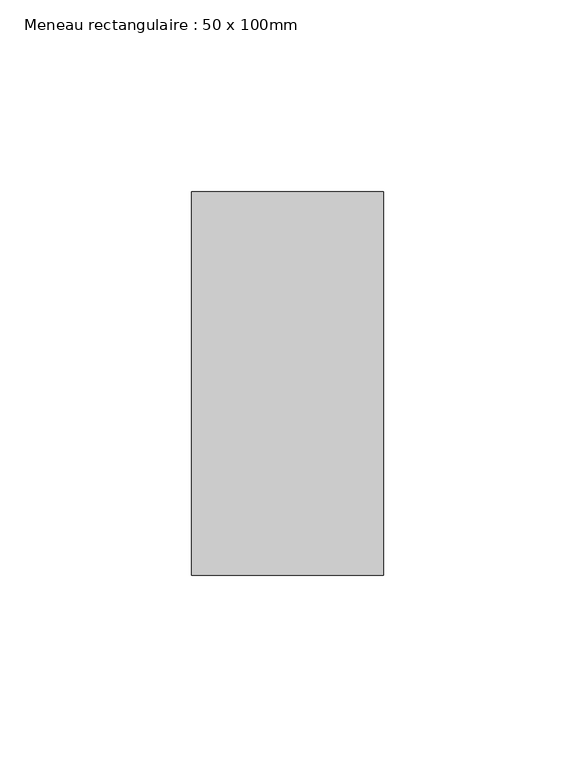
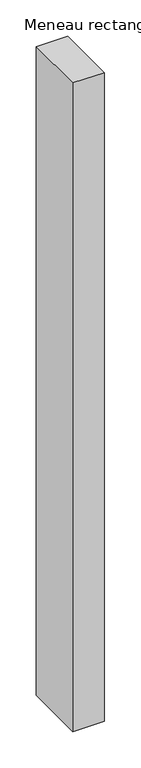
"""IFC4 building model written with IfcOpenShell, lengths in millimetres: member geometry, Meneau rectangulaire : 50 x 100mm."""

from ifc_helpers import new_model, si_unit, frame, origin, place, context, project, spatial, polyline, outline, extrude, source, transform, mapped, element, save


def meneau_rectangulaire_50_x_100mm_d45ac7b1(model_context):
    return source(origin(), model_context, "Body", "SweptSolid", [
        extrude(outline(polyline([(0.0, 50.0), (0.0, -50.0), (-50.0, -50.0), (-50.0, 50.0), (0.0, 50.0)])), frame((0.0, 0.0, -1088.3698288), z_axis=(0.0, 0.0, 1.0), x_axis=(1.0, 0.0, 0.0)), (0.0, 0.0, 1.0), 1088.3698288),
    ])


if __name__ == "__main__":
    model = new_model("IFC4")
    model_context = context("Model", 3, world=origin())
    ifc_project = project(units=[si_unit("LENGTHUNIT", "METRE", prefix="MILLI")], contexts=[model_context])
    site = spatial("IfcSite", under=ifc_project)
    building = spatial("IfcBuilding", under=site)
    placement = place(None, origin())
    meneau_rectangulaire_50_x_100mm_shape = meneau_rectangulaire_50_x_100mm_d45ac7b1(model_context)
    element("IfcMember", 1, ObjectType="Meneau rectangulaire : 50 x 100mm", at=placement, inside=building, context=model_context, shape_type="MappedRepresentation", body=[
        mapped(meneau_rectangulaire_50_x_100mm_shape, transform((0.0, 0.0, 0.0), x_axis=(1.0, 0.0, 0.0), y_axis=(0.0, 1.0, 0.0), z_axis=(0.0, 0.0, 1.0))),
    ])
    save(model, "model.ifc")
